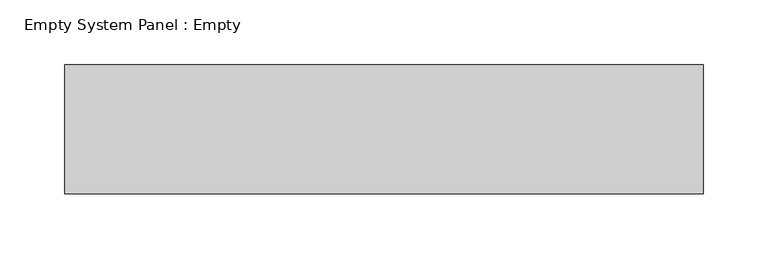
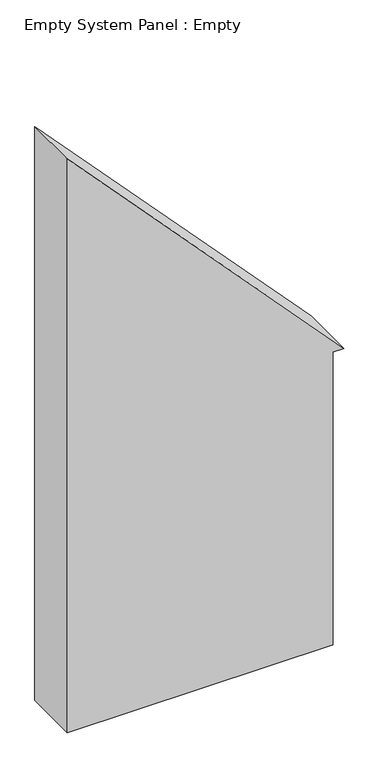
"""IFC4 building model written with IfcOpenShell, lengths in millimetres: plate geometry, Empty System Panel : Empty."""

import ifcopenshell
import ifcopenshell.guid

model = None  # the IFC model being written
_history = None  # IfcOwnerHistory: only IFC2X3 demands one
_inside = {}  # id of a spatial element -> (the spatial element, [elements in it])
_under = {}  # id of a project, library or spatial element -> (it, [spatial elements below it])
_declared = {}  # id of a project -> (the project, [libraries it declares])
_typed = {}  # id of a type object -> (the type object, [elements of that type])
_made_of = {}  # id of a material, layer set ... -> (it, [elements and type objects made of it])


def new_model(schema):
    """Start an empty IFC model of exactly this schema.

    Asked for "IFC4X3", IfcOpenShell would pick the latest addendum, in which some entities
    have other attributes; the version numbers below select the first issue.
    IFC2X3 requires an IfcOwnerHistory on every rooted entity: one is made here for all.
    """
    global model, _history
    if schema == "IFC4X3":
        model = ifcopenshell.file(schema_version=(4, 3, 0, 0))
    else:
        model = ifcopenshell.file(schema=schema)
    _inside.clear()
    _under.clear()
    _declared.clear()
    _typed.clear()
    _made_of.clear()
    _history = None
    if model.schema == "IFC2X3":
        org = make("IfcOrganization", Name="unknown")
        user = make(
            "IfcPersonAndOrganization",
            ThePerson=make("IfcPerson", FamilyName="unknown"),
            TheOrganization=org,
        )
        app = make(
            "IfcApplication",
            ApplicationDeveloper=org,
            Version="unknown",
            ApplicationFullName="unknown",
            ApplicationIdentifier="unknown",
        )
        _history = make(
            "IfcOwnerHistory",
            OwningUser=user,
            OwningApplication=app,
            ChangeAction="ADDED",
            CreationDate=0,
        )
    return model


def make(cls, **values):
    """One entity of the class cls with the attributes given. An attribute that is None is left unset."""
    return model.create_entity(
        cls, **{name: value for name, value in values.items() if value is not None}
    )


def rooted(cls, **values):
    """An entity with a GlobalId (a new one), such as an element, a storey or a relation."""
    return make(cls, GlobalId=ifcopenshell.guid.new(), OwnerHistory=_history, **values)


def si_unit(unit_type, name, prefix=None):
    """IfcSIUnit, for example si_unit("LENGTHUNIT", "METRE", prefix="MILLI")."""
    return make("IfcSIUnit", UnitType=unit_type, Prefix=prefix, Name=name)


def assignment(units):
    """IfcUnitAssignment: the units of a project."""
    return None if units is None else make("IfcUnitAssignment", Units=units)


def point(xyz):
    """IfcCartesianPoint."""
    return None if xyz is None else make("IfcCartesianPoint", Coordinates=xyz)


def direction(xyz):
    """IfcDirection."""
    return None if xyz is None else make("IfcDirection", DirectionRatios=xyz)


def frame(location, z_axis=None, x_axis=None):
    """IfcAxis2Placement3D, a coordinate frame: its origin and axes. An axis left out is left unset."""
    return make(
        "IfcAxis2Placement3D",
        Location=point(location),
        Axis=direction(z_axis),
        RefDirection=direction(x_axis),
    )


def origin():
    """The frame at (0, 0, 0) with its axes left unset."""
    return frame((0.0, 0.0, 0.0))


def place(relative_to, where):
    """IfcLocalPlacement: puts the frame where relative to a parent placement (None: the world)."""
    return make(
        "IfcLocalPlacement", PlacementRelTo=relative_to, RelativePlacement=where
    )


def context(
    kind, dimensions, precision=None, world=None, true_north=None, identifier=None
):
    """IfcGeometricRepresentationContext, for example the 3D "Model" context."""
    return make(
        "IfcGeometricRepresentationContext",
        ContextIdentifier=identifier,
        ContextType=kind,
        CoordinateSpaceDimension=dimensions,
        Precision=precision,
        WorldCoordinateSystem=world,
        TrueNorth=true_north,
    )


def project(units=None, contexts=None):
    """IfcProject with its units and contexts."""
    return rooted(
        "IfcProject",
        Name="project",
        RepresentationContexts=contexts,
        UnitsInContext=assignment(units),
    )


def spatial(cls, under=None, at=None, **own):
    """A site, building, storey or space (cls), placed at a placement, below another one or the project."""
    s = rooted(cls, ObjectPlacement=at, **own)
    if under is not None:
        _under.setdefault(under.id(), (under, []))[1].append(s)
    return s


def polyline(points):
    """IfcPolyline through the points."""
    return make("IfcPolyline", Points=[point(p) for p in points])


def outline(outer, holes=None, kind="AREA"):
    """IfcArbitraryClosedProfileDef: a profile drawn as a closed curve; with holes, ...WithVoids."""
    if holes is None:
        return make("IfcArbitraryClosedProfileDef", ProfileType=kind, OuterCurve=outer)
    return make(
        "IfcArbitraryProfileDefWithVoids",
        ProfileType=kind,
        OuterCurve=outer,
        InnerCurves=holes,
    )


def extrude(swept, where, along, depth):
    """IfcExtrudedAreaSolid: the profile swept, set in the frame where, extruded along a direction by depth."""
    return make(
        "IfcExtrudedAreaSolid",
        SweptArea=swept,
        Position=where,
        ExtrudedDirection=direction(along),
        Depth=depth,
    )


def shape(context_of_items, identifier, shape_type, items):
    """IfcShapeRepresentation: the items that make up one representation, for example the "Body"."""
    return make(
        "IfcShapeRepresentation",
        ContextOfItems=context_of_items,
        RepresentationIdentifier=identifier,
        RepresentationType=shape_type,
        Items=items,
    )


def source(mapping_origin, context_of_items, identifier, shape_type, items):
    """IfcRepresentationMap: a shape defined once, which mapped items show again and again."""
    return make(
        "IfcRepresentationMap",
        MappingOrigin=mapping_origin,
        MappedRepresentation=shape(context_of_items, identifier, shape_type, items),
    )


def transform(
    local_origin,
    x_axis=None,
    y_axis=None,
    z_axis=None,
    scale=None,
    scale2=None,
    scale3=None,
    uniform=True,
):
    """IfcCartesianTransformationOperator3D, or its non-uniform kind. x_axis, y_axis, z_axis: its Axis1, 2, 3."""
    if uniform:
        return make(
            "IfcCartesianTransformationOperator3D",
            Axis1=direction(x_axis),
            Axis2=direction(y_axis),
            LocalOrigin=point(local_origin),
            Scale=scale,
            Axis3=direction(z_axis),
        )
    return make(
        "IfcCartesianTransformationOperator3DnonUniform",
        Axis1=direction(x_axis),
        Axis2=direction(y_axis),
        LocalOrigin=point(local_origin),
        Scale=scale,
        Axis3=direction(z_axis),
        Scale2=scale2,
        Scale3=scale3,
    )


def mapped(mapping_source, mapping_target):
    """IfcMappedItem: shows the shape of a source again, moved by a transform."""
    return make(
        "IfcMappedItem", MappingSource=mapping_source, MappingTarget=mapping_target
    )


def made_of(thing, what):
    """Note that an element or type object is made of a material, layer set ...; save() writes the relation."""
    if what is not None:
        _made_of.setdefault(what.id(), (what, []))[1].append(thing)
    return thing


def element(
    cls,
    number,
    at=None,
    inside=None,
    cuts=None,
    type_object=None,
    material=None,
    context=None,
    identifier="Body",
    shape_type=None,
    held_by="IfcProductDefinitionShape",
    body=None,
    shapes=None,
    **own,
):
    """One element of the class cls, such as IfcWall. Its Tag is "e" and its number.

    at: its placement. inside: the storey or other place that contains it. cuts: it is an
    opening in that element (IfcRelVoidsElement). A single representation is given by context,
    identifier, shape_type and body (its items); several are given by shapes. held_by: the class
    of the entity that holds the representations. save() writes the other relations.
    """
    e = rooted(cls, Tag="e%d" % number, ObjectPlacement=at, **own)
    if body is not None:
        shapes = [shape(context, identifier, shape_type, body)]
    if shapes is not None:
        e.Representation = make(held_by, Representations=shapes)
    if inside is not None:
        _inside.setdefault(inside.id(), (inside, []))[1].append(e)
    if cuts is not None:
        rooted(
            "IfcRelVoidsElement", RelatingBuildingElement=cuts, RelatedOpeningElement=e
        )
    if type_object is not None:
        _typed.setdefault(type_object.id(), (type_object, []))[1].append(e)
    return made_of(e, material)


def aggregate(whole, parts):
    """IfcRelAggregates: a whole, such as a stair, and the parts it consists of."""
    return rooted("IfcRelAggregates", RelatingObject=whole, RelatedObjects=parts)


def save(model, path):
    """Write the relations noted so far, then the file.

    IfcRelAggregates (storeys below a building ...), IfcRelContainedInSpatialStructure (elements
    in a storey), IfcRelDefinesByType, IfcRelAssociatesMaterial and IfcRelDeclares: one each for
    every whole, place, type object, material and project.
    """
    for whole, parts in _under.values():
        aggregate(whole, parts)
    for where, things in _inside.values():
        rooted(
            "IfcRelContainedInSpatialStructure",
            RelatedElements=things,
            RelatingStructure=where,
        )
    for kind, things in _typed.values():
        rooted("IfcRelDefinesByType", RelatedObjects=things, RelatingType=kind)
    for what, things in _made_of.values():
        rooted("IfcRelAssociatesMaterial", RelatedObjects=things, RelatingMaterial=what)
    for by, libraries in _declared.values():
        rooted("IfcRelDeclares", RelatingContext=by, RelatedDefinitions=libraries)
    model.write(path)


def empty_system_panel_empty_af9acbdd(model_context):
    return source(origin(), model_context, "Body", "SweptSolid", [
        extrude(outline(polyline([(0.0, -247.2855469), (0.0, 227.2855469), (552.7379405, 227.2855469), (552.7379405, 247.2855469), (1083.9924377, -247.2855469), (0.0, -247.2855469)])), frame((0.0, -50.0, 0.0), z_axis=(0.0, 1.0, 0.0), x_axis=(0.0, 0.0, 1.0)), (0.0, 0.0, 1.0), 100.0),
    ])


if __name__ == "__main__":
    model = new_model("IFC4")
    model_context = context("Model", 3, world=origin())
    ifc_project = project(units=[si_unit("LENGTHUNIT", "METRE", prefix="MILLI")], contexts=[model_context])
    site = spatial("IfcSite", under=ifc_project)
    building = spatial("IfcBuilding", under=site)
    placement = place(None, origin())
    empty_system_panel_empty_shape = empty_system_panel_empty_af9acbdd(model_context)
    element("IfcPlate", 1, ObjectType="Empty System Panel : Empty", at=placement, inside=building, context=model_context, shape_type="MappedRepresentation", body=[
        mapped(empty_system_panel_empty_shape, transform((0.0, 0.0, 0.0), x_axis=(1.0, 0.0, 0.0), y_axis=(0.0, 1.0, 0.0), z_axis=(0.0, 0.0, 1.0))),
    ])
    save(model, "model.ifc")
